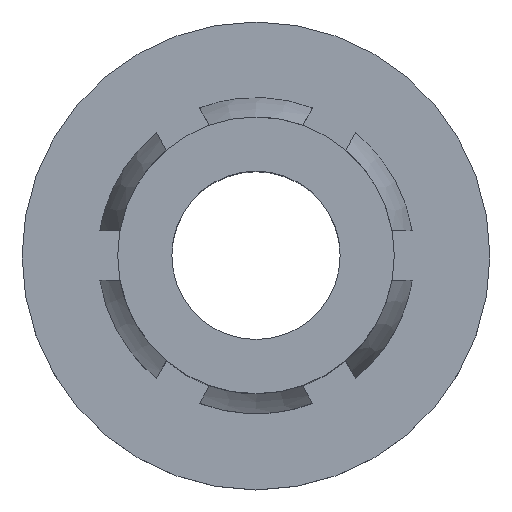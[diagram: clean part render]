
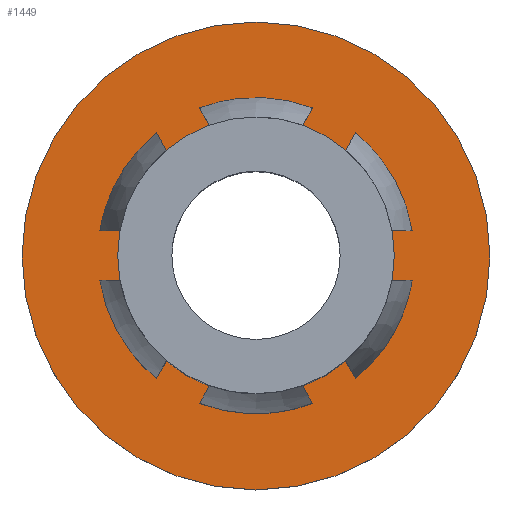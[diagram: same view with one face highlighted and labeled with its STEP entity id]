
A CAD part, top view. The second image highlights one B-rep face of the part: STEP entity #1449.
In plain terms, the highlighted planar face has unit normal (0, 0, 1).
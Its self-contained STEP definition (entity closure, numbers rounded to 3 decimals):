
#77 = EDGE_LOOP ( 'NONE', ( #1304 ) ) ;
#86 = CARTESIAN_POINT ( 'NONE',  ( 13.04, 0., -18.516 ) ) ;
#97 = DIRECTION ( 'NONE',  ( 0., 0., -1. ) ) ;
#144 = CIRCLE ( 'NONE', #2098, 3.759 ) ;
#181 = VERTEX_POINT ( 'NONE', #2069 ) ;
#384 = CARTESIAN_POINT ( 'NONE',  ( 5.521, 0., -18.516 ) ) ;
#387 = DIRECTION ( 'NONE',  ( 0., 0., -1. ) ) ;
#744 = CARTESIAN_POINT ( 'NONE',  ( 9.281, 0., -18.516 ) ) ;
#762 = AXIS2_PLACEMENT_3D ( 'NONE', #744, #2214, #953 ) ;
#780 = ORIENTED_EDGE ( 'NONE', *, *, #846, .F. ) ;
#846 = EDGE_CURVE ( 'NONE', #1868, #1868, #144, .T. ) ;
#933 = CIRCLE ( 'NONE', #762, 2.223 ) ;
#953 = DIRECTION ( 'NONE',  ( -1., 0., 0. ) ) ;
#1121 = PLANE ( 'NONE',  #1860 ) ;
#1304 = ORIENTED_EDGE ( 'NONE', *, *, #2035, .F. ) ;
#1376 = FACE_BOUND ( 'NONE', #77, .T. ) ;
#1449 = ADVANCED_FACE ( 'NONE', ( #1376, #1889 ), #1121, .F. ) ;
#1797 = EDGE_LOOP ( 'NONE', ( #780 ) ) ;
#1860 = AXIS2_PLACEMENT_3D ( 'NONE', #86, #97, #2596 ) ;
#1868 = VERTEX_POINT ( 'NONE', #384 ) ;
#1889 = FACE_OUTER_BOUND ( 'NONE', #1797, .T. ) ;
#1893 = DIRECTION ( 'NONE',  ( -1., 0., 0. ) ) ;
#2035 = EDGE_CURVE ( 'NONE', #181, #181, #933, .T. ) ;
#2069 = CARTESIAN_POINT ( 'NONE',  ( 7.058, 0., -18.516 ) ) ;
#2098 = AXIS2_PLACEMENT_3D ( 'NONE', #2100, #387, #1893 ) ;
#2100 = CARTESIAN_POINT ( 'NONE',  ( 9.281, 0., -18.516 ) ) ;
#2214 = DIRECTION ( 'NONE',  ( 0., 0., 1. ) ) ;
#2596 = DIRECTION ( 'NONE',  ( -1., 0., 0. ) ) ;
